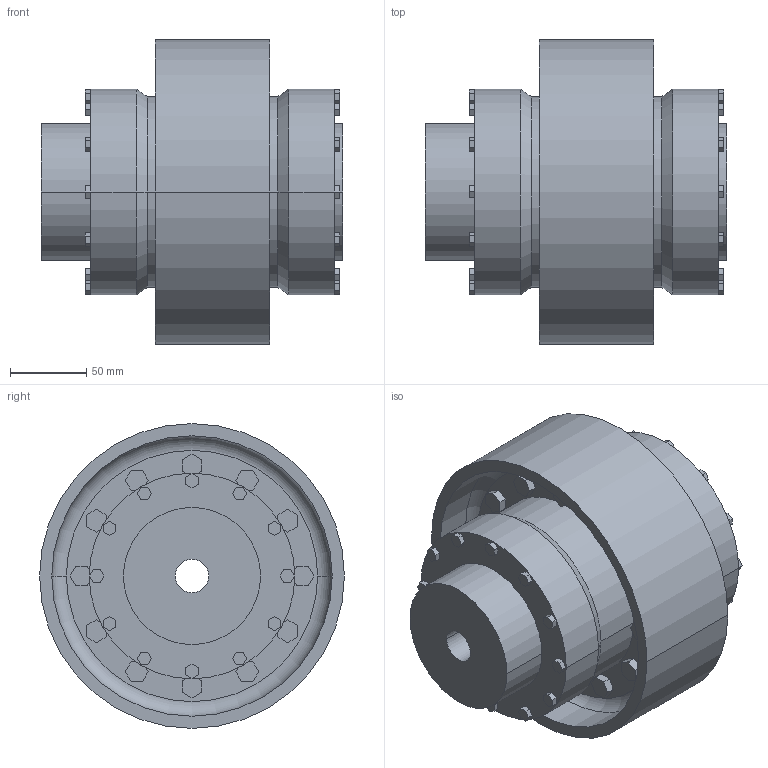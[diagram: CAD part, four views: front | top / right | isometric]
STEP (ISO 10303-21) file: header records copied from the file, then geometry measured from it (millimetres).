
FILE_DESCRIPTION((''),'2;1');
FILE_NAME('A19734100-0_ASM','2019-05-23T',('AB_Roschiwal'),('RENK AG'),'PRO/ENGINEER BY PARAMETRIC TECHNOLOGY CORPORATION, 2015440','PRO/ENGINEER BY PARAMETRIC TECHNOLOGY CORPORATION, 2015440','');
FILE_SCHEMA(('CONFIG_CONTROL_DESIGN'));
Length unit declared in the file: millimetre
Products named in the file (4): SBKD60_GEHAEUSE; SBKD60_NABE; SBKD60_BREMSSCHEIBE; A19734100-0_ASM
Assembly tree (4 placements, depth 2):
  A19734100-0_ASM
    SBKD60_GEHAEUSE
    SBKD60_NABE  x2
    SBKD60_BREMSSCHEIBE
Bounding box: 198 x 200 x 200 mm (x, y, z)
Volume: 2342091.4 mm3; surface area: 415745.2 mm2
Topology: 4 solids, 4 shells, 474 faces, 1164 edges, 772 vertices
Faces by surface type: plane 370, cylinder 96, cone 4, torus 4
Entity records: 13708 total; most frequent: CARTESIAN_POINT 2366, ORIENTED_EDGE 2280, DIRECTION 2264, EDGE_CURVE 1140, VECTOR 956, LINE 956, VERTEX_POINT 756, AXIS2_PLACEMENT_3D 654
